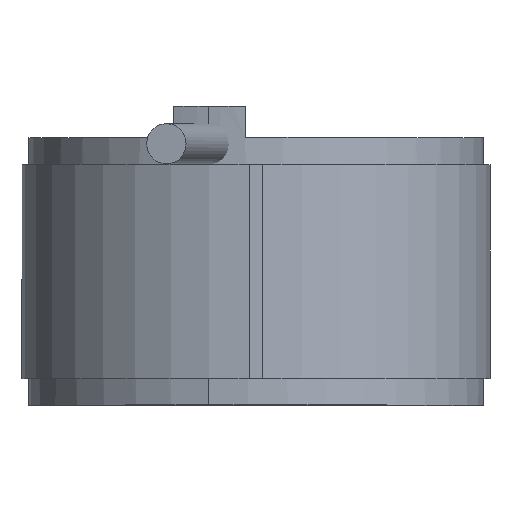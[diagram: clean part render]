
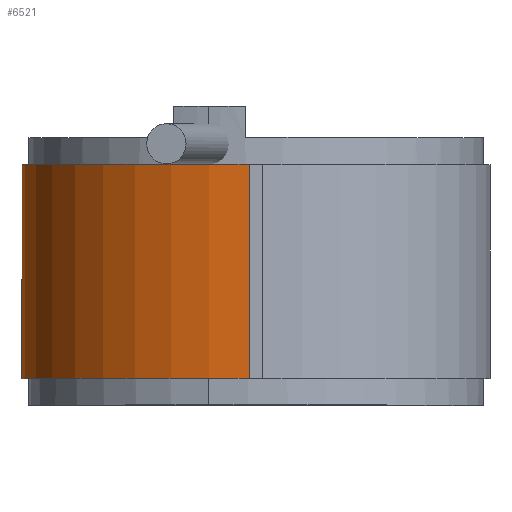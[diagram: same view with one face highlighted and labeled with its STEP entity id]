
A CAD part, top view. The second image highlights one B-rep face of the part: STEP entity #6521.
In plain terms, the highlighted cylindrical face has radius 52.5 mm (diameter 105 mm), a partial arc.
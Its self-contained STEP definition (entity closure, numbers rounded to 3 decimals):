
#89 = LINE ( 'NONE', #868, #2184 ) ;
#330 = VECTOR ( 'NONE', #4408, 1000. ) ;
#819 = CARTESIAN_POINT ( 'NONE',  ( 17.101, 93.869, 53.812 ) ) ;
#868 = CARTESIAN_POINT ( 'NONE',  ( 15.576, 238.577, 106.29 ) ) ;
#1453 = CIRCLE ( 'NONE', #9087, 52.5 ) ;
#2184 = VECTOR ( 'NONE', #2346, 1000. ) ;
#2261 = DIRECTION ( 'NONE',  ( 0., 1., 0. ) ) ;
#2340 = DIRECTION ( 'NONE',  ( -1., 0., 0. ) ) ;
#2346 = DIRECTION ( 'NONE',  ( 0., -1., 0. ) ) ;
#2458 = CARTESIAN_POINT ( 'NONE',  ( 17.101, 61.869, 53.812 ) ) ;
#2617 = ORIENTED_EDGE ( 'NONE', *, *, #3983, .F. ) ;
#2635 = CARTESIAN_POINT ( 'NONE',  ( -35.399, 61.869, 53.812 ) ) ;
#2674 = AXIS2_PLACEMENT_3D ( 'NONE', #2458, #8754, #3975 ) ;
#2885 = ORIENTED_EDGE ( 'NONE', *, *, #7747, .F. ) ;
#3115 = ORIENTED_EDGE ( 'NONE', *, *, #8372, .F. ) ;
#3497 = EDGE_LOOP ( 'NONE', ( #3115, #2617, #5681, #2885 ) ) ;
#3654 = EDGE_CURVE ( 'NONE', #8363, #8117, #89, .T. ) ;
#3975 = DIRECTION ( 'NONE',  ( -1., 0., 0. ) ) ;
#3983 = EDGE_CURVE ( 'NONE', #8117, #6578, #1453, .T. ) ;
#4144 = CARTESIAN_POINT ( 'NONE',  ( 17.101, 13.869, 53.812 ) ) ;
#4408 = DIRECTION ( 'NONE',  ( 0., 1., 0. ) ) ;
#4579 = AXIS2_PLACEMENT_3D ( 'NONE', #819, #2261, #2340 ) ;
#5063 = CARTESIAN_POINT ( 'NONE',  ( -35.399, 93.869, 53.812 ) ) ;
#5111 = FACE_OUTER_BOUND ( 'NONE', #3497, .T. ) ;
#5681 = ORIENTED_EDGE ( 'NONE', *, *, #3654, .F. ) ;
#5883 = CYLINDRICAL_SURFACE ( 'NONE', #4579, 52.5 ) ;
#6202 = CIRCLE ( 'NONE', #2674, 52.5 ) ;
#6521 = ADVANCED_FACE ( 'NONE', ( #5111 ), #5883, .T. ) ;
#6578 = VERTEX_POINT ( 'NONE', #8004 ) ;
#6803 = CARTESIAN_POINT ( 'NONE',  ( 15.576, 13.869, 106.29 ) ) ;
#6892 = DIRECTION ( 'NONE',  ( 0., -1., 0. ) ) ;
#7075 = CARTESIAN_POINT ( 'NONE',  ( 15.576, 61.869, 106.29 ) ) ;
#7747 = EDGE_CURVE ( 'NONE', #7777, #8363, #6202, .T. ) ;
#7777 = VERTEX_POINT ( 'NONE', #2635 ) ;
#8004 = CARTESIAN_POINT ( 'NONE',  ( -35.399, 13.869, 53.812 ) ) ;
#8117 = VERTEX_POINT ( 'NONE', #6803 ) ;
#8363 = VERTEX_POINT ( 'NONE', #7075 ) ;
#8372 = EDGE_CURVE ( 'NONE', #6578, #7777, #8545, .T. ) ;
#8415 = DIRECTION ( 'NONE',  ( -1., 0., 0. ) ) ;
#8545 = LINE ( 'NONE', #5063, #330 ) ;
#8754 = DIRECTION ( 'NONE',  ( 0., 1., 0. ) ) ;
#9087 = AXIS2_PLACEMENT_3D ( 'NONE', #4144, #6892, #8415 ) ;
